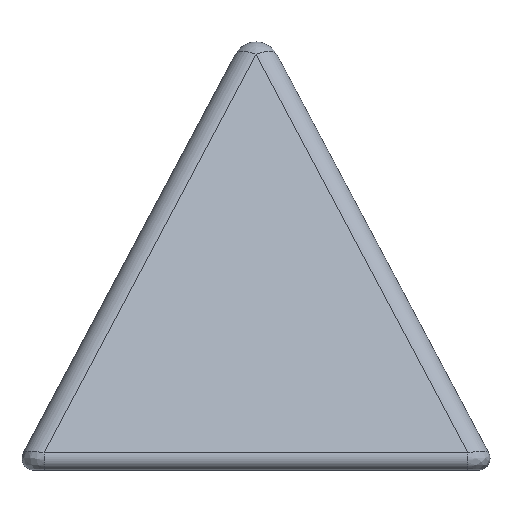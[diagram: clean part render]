
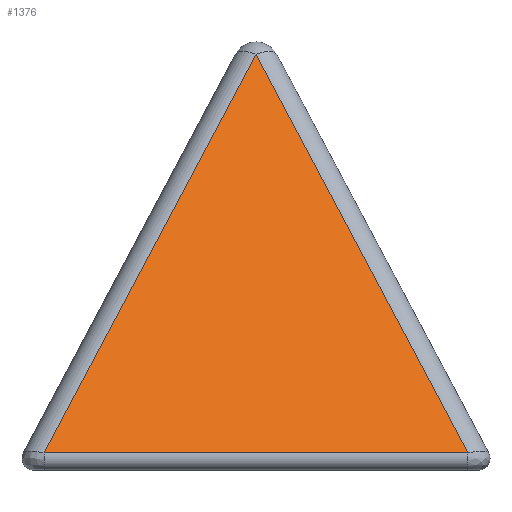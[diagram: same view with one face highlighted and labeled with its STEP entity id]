
A CAD part, left-side view. The second image highlights one B-rep face of the part: STEP entity #1376.
In plain terms, the highlighted planar face has unit normal (-0.883, 0, 0.469).
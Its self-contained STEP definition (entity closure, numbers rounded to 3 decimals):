
#160=FACE_OUTER_BOUND('',#243,.T.);
#243=EDGE_LOOP('',(#1084,#1085,#1086));
#392=LINE('',#2254,#499);
#408=LINE('',#2312,#515);
#409=LINE('',#2313,#516);
#499=VECTOR('',#1785,10.);
#515=VECTOR('',#1845,1.);
#516=VECTOR('',#1846,10.);
#633=VERTEX_POINT('',#2246);
#634=VERTEX_POINT('',#2253);
#654=VERTEX_POINT('',#2311);
#788=EDGE_CURVE('',#633,#634,#392,.T.);
#821=EDGE_CURVE('',#654,#633,#408,.T.);
#822=EDGE_CURVE('',#634,#654,#409,.T.);
#1084=ORIENTED_EDGE('',*,*,#788,.F.);
#1085=ORIENTED_EDGE('',*,*,#821,.F.);
#1086=ORIENTED_EDGE('',*,*,#822,.F.);
#1332=PLANE('',#1520);
#1376=ADVANCED_FACE('',(#160),#1332,.T.);
#1520=AXIS2_PLACEMENT_3D('',#2310,#1843,#1844);
#1785=DIRECTION('',(0.425,-0.425,0.799));
#1843=DIRECTION('center_axis',(-0.883,0.,0.469));
#1844=DIRECTION('ref_axis',(0.,-1.,0.));
#1845=DIRECTION('',(0.,1.,0.));
#1846=DIRECTION('',(-0.425,-0.425,-0.799));
#2246=CARTESIAN_POINT('',(-19.75,17.984,0.469));
#2253=CARTESIAN_POINT('',(-1.766,0.,34.293));
#2254=CARTESIAN_POINT('',(-16.707,14.941,6.193));
#2310=CARTESIAN_POINT('Origin',(-20.,-20.,0.));
#2311=CARTESIAN_POINT('',(-19.75,-17.984,0.469));
#2312=CARTESIAN_POINT('',(-19.75,0.,0.469));
#2313=CARTESIAN_POINT('',(-16.707,-14.941,6.193));
